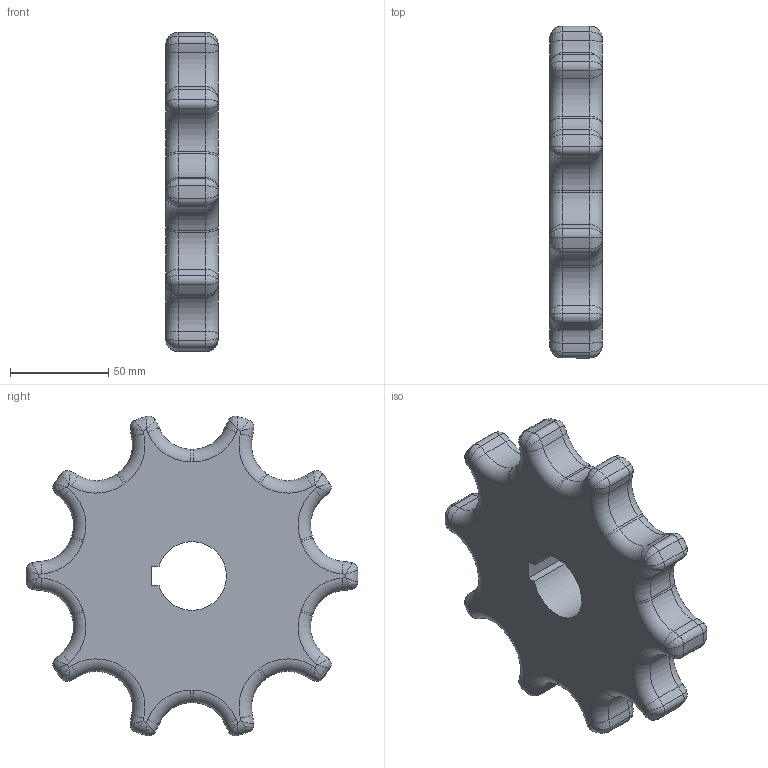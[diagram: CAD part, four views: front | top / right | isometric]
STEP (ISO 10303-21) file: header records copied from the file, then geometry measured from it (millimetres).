
FILE_DESCRIPTION((''),'2;1');
FILE_NAME('S3000_SPROCKET_65X1-1_4_RND','2008-12-12T',('jmumphre'),(''),'PRO/ENGINEER BY PARAMETRIC TECHNOLOGY CORPORATION, 2008150','PRO/ENGINEER BY PARAMETRIC TECHNOLOGY CORPORATION, 2008150','');
FILE_SCHEMA(('CONFIG_CONTROL_DESIGN'));
Length unit declared in the file: inch
Products named in the file (1): S3000_SPROCKET_65X1-1_4_RND
Bounding box: 26.8 x 169.03 x 162.87 mm (x, y, z)
Volume: 406936.8 mm3; surface area: 48872.8 mm2
Topology: 1 solids, 1 shells, 246 faces, 532 edges, 288 vertices
Faces by surface type: torus 100, cylinder 91, bspline 40, plane 15
Entity records: 9142 total; most frequent: CARTESIAN_POINT 3886, DIRECTION 1186, ORIENTED_EDGE 1064, EDGE_CURVE 532, AXIS2_PLACEMENT_3D 528, CIRCLE 322, VERTEX_POINT 288, EDGE_LOOP 248
